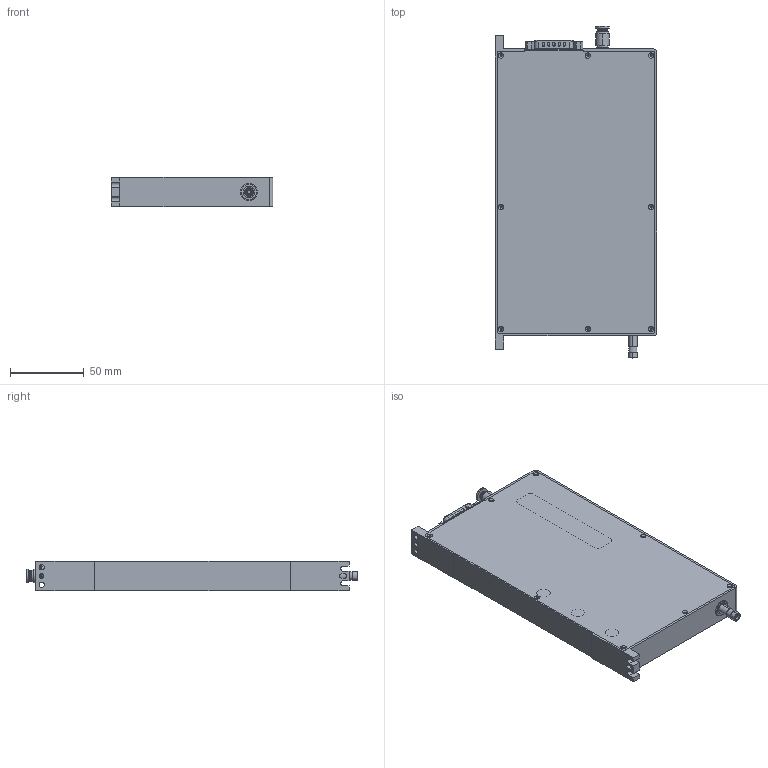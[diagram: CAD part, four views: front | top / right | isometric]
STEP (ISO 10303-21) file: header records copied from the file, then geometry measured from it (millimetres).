
FILE_DESCRIPTION (( 'STEP AP214' ), '1' );
FILE_NAME ('ZRADS6-20-S40-EC.STEP', '2023-10-16T08:22:13', ( 'XZOS' ), ( 'MS' ), 'SwSTEP 2.0', 'SolidWorks 2019', '' );
FILE_SCHEMA (( 'AUTOMOTIVE_DESIGN' ));
Length unit declared in the file: millimetre
Products named in the file (10): UDB26-PCB_1; ZRADS6-20-S40-006_1; ZRADS6-20-S40-001_1; 揹諳諉芛假蚾翐_1; POC4M5-SZ_1; X2-ZRADS6-20-PCB2-DB26諉芛_1; ZRADS6-20-S40-003_1; ZRADS6-20-S40-012_1; ZRADS6-20-S40-EC; ZRADS6-20-S40-011_1
Assembly tree (10 placements, depth 3):
  ZRADS6-20-S40-EC
    ZRADS6-20-S40-001_1
    ZRADS6-20-S40-003_1
    ZRADS6-20-S40-006_1
    ZRADS6-20-S40-011_1
    ZRADS6-20-S40-012_1
    POC4M5-SZ_1
    X2-ZRADS6-20-PCB2-DB26諉芛_1
      UDB26-PCB_1
    揹諳諉芛假蚾翐_1  x2
Bounding box: 110 x 225.6 x 20 mm (x, y, z)
Volume: 432825.4 mm3; surface area: 115776.5 mm2
Topology: 9 solids, 11 shells, 1242 faces, 2887 edges, 1722 vertices
Faces by surface type: cylinder 587, plane 277, torus 189, cone 91, sphere 53, bspline 45
Entity records: 51035 total; most frequent: CARTESIAN_POINT 9498, DIRECTION 6219, ORIENTED_EDGE 5462, EDGE_CURVE 2731, AXIS2_PLACEMENT_3D 2529, VERTEX_POINT 1652, EDGE_LOOP 1389, CIRCLE 1333
